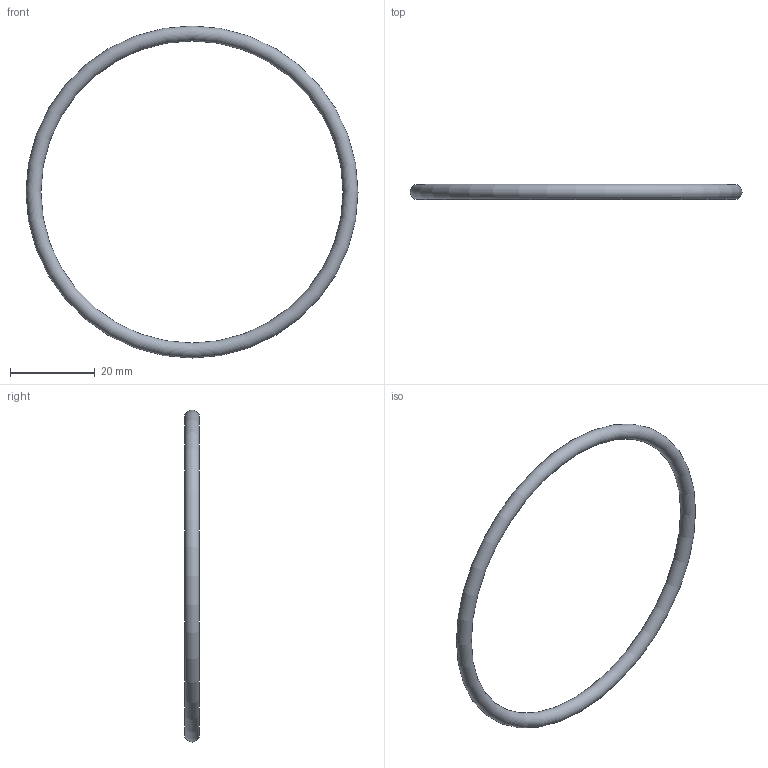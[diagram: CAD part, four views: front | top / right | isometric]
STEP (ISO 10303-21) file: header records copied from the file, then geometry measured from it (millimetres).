
FILE_DESCRIPTION( ( 'STEP AP203' ), '1' );
FILE_NAME( 'C:/Temp/Ganter_Step_05_03_2020/data/3_5/or638/O-Ring OR638-71.44-3.53-70.stp', '2020-03-12T13:44:33', ( 'License CC BY-ND 4.0' ), ( 'CADENAS' ), ' ', 'PARTsolutions', ' ' );
FILE_SCHEMA( ( 'CONFIG_CONTROL_DESIGN' ) );
Length unit declared in the file: millimetre
Products named in the file (1): _O-Ring OR638-71.44-3.53-70
Bounding box: 78.5 x 3.53 x 78.5 mm (x, y, z)
Volume: 2305 mm3; surface area: 2611.9 mm2
Topology: 1 solids, 1 shells, 1 faces, 2 edges, 1 vertices
Faces by surface type: torus 1
Entity records: 62 total; most frequent: CC_DESIGN_PERSON_AND_ORGANIZATION_ASSIGNMENT 5, PERSON_AND_ORGANIZATION_ROLE 4, DIRECTION 4, CARTESIAN_POINT 3, DATE_TIME_ROLE 2, CC_DESIGN_DATE_AND_TIME_ASSIGNMENT 2, AXIS2_PLACEMENT_3D 2, DIMENSIONAL_EXPONENTS 2
